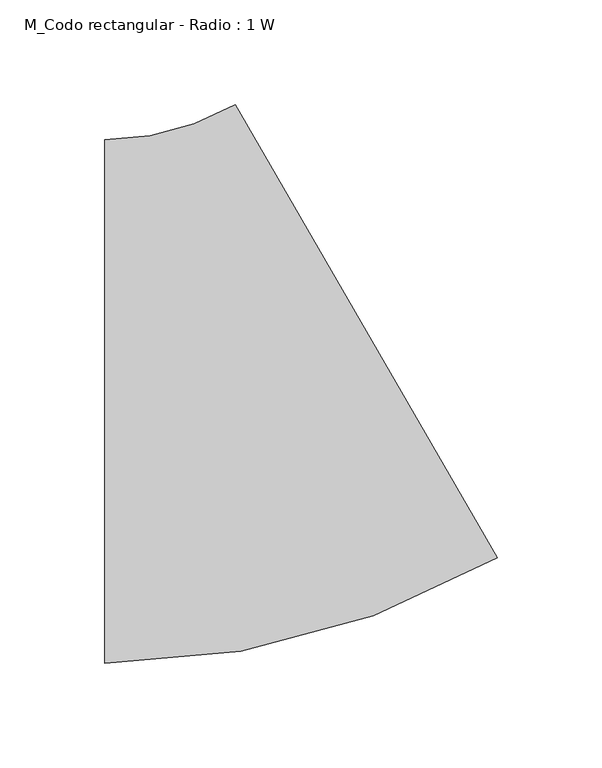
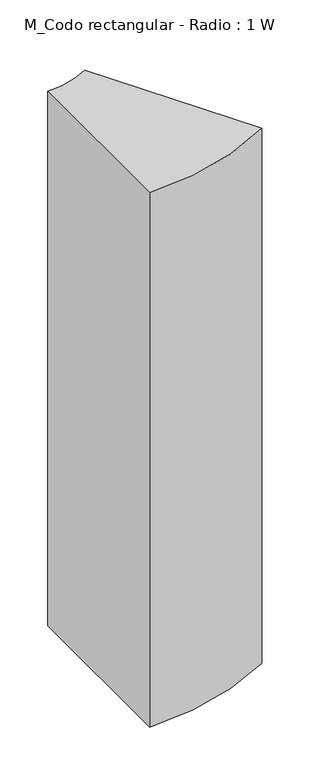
"""IFC4 building model written with IfcOpenShell, lengths in millimetres: duct fitting geometry, M_Codo rectangular - Radio : 1 W."""

from ifc_helpers import new_model, si_unit, point, frame, frame_2d, origin, place, context, project, spatial, polyline, circle_curve, trimmed, segment, composite_curve, outline, extrude, source, transform, mapped, element, save


def m_codo_rectangular_radio_1_w_7c9cb5ba(model_context):
    return source(origin(), model_context, "Body", "SweptSolid", [
        extrude(outline(composite_curve([segment(trimmed(circle_curve(frame_2d((-66.9872981, 250.0)), 375.0), [point((120.5127019, -74.7595264))], [point((-66.9872981, -125.0))], False, "CARTESIAN"), True, "CONTINUOUS"), segment(polyline([(-66.9872981, -125.0), (-66.9872981, 125.0)]), True, "CONTINUOUS"), segment(trimmed(circle_curve(frame_2d((-66.9872981, 250.0)), 125.0), [point((-66.9872981, 125.0))], [point((-4.4872981, 141.7468245))], True, "CARTESIAN"), True, "CONTINUOUS"), segment(polyline([(-4.4872981, 141.7468245), (120.5127019, -74.7595264)]), True, "CONTINUOUS")], self_intersect=False)), frame((0.0, 0.0, -400.0), z_axis=(0.0, 0.0, 1.0), x_axis=(1.0, 0.0, 0.0)), (0.0, 0.0, 1.0), 800.0),
    ])


if __name__ == "__main__":
    model = new_model("IFC4")
    model_context = context("Model", 3, world=origin())
    ifc_project = project(units=[si_unit("LENGTHUNIT", "METRE", prefix="MILLI")], contexts=[model_context])
    site = spatial("IfcSite", under=ifc_project)
    building = spatial("IfcBuilding", under=site)
    placement = place(None, origin())
    m_codo_rectangular_radio_1_w_shape = m_codo_rectangular_radio_1_w_7c9cb5ba(model_context)
    element("IfcDuctFitting", 1, ObjectType="M_Codo rectangular - Radio : 1 W", at=placement, inside=building, context=model_context, shape_type="MappedRepresentation", body=[
        mapped(m_codo_rectangular_radio_1_w_shape, transform((0.0, 0.0, 0.0), x_axis=(1.0, 0.0, 0.0), y_axis=(0.0, 1.0, 0.0), z_axis=(0.0, 0.0, 1.0))),
    ])
    save(model, "model.ifc")
